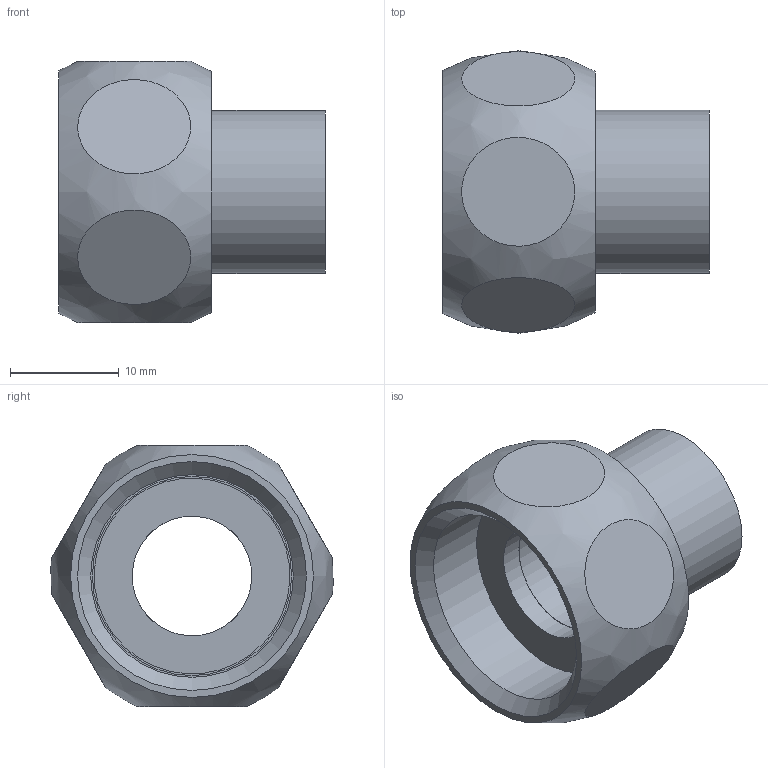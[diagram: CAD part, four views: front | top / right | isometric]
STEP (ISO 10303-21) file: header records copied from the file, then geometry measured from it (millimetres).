
FILE_DESCRIPTION(/* description */ (''),/* implementation_level */ '2;1');
FILE_NAME(/* name */ '\\LG50001\SANHA_Legnica\Engineering\Public\RYSUNKI\SANHA POLSKA\4359g\inventor\14359g_12-12(1).stp',/* time_stamp */ '2017-03-16T12:42:30+01:00',/* author */ ('gomulka'),/* organization */ (''),/* preprocessor_version */ 'ST-DEVELOPER v15.6',/* originating_system */ 'Autodesk Inventor 2015',/* authorisation */ '');
FILE_SCHEMA (('AUTOMOTIVE_DESIGN { 1 0 10303 214 3 1 1 }'));
Length unit declared in the file: millimetre
Products named in the file (4): 14372_12-12(1); 14374B_12(0); 1DCU12; 14359g_12-12(1)
Assembly tree (3 placements, depth 2):
  14359g_12-12(1)
    14372_12-12(1)
    14374B_12(0)
    1DCU12
Bounding box: 24.5 x 25.96 x 24 mm (x, y, z)
Volume: 4541.3 mm3; surface area: 4458.7 mm2
Topology: 3 solids, 3 shells, 25 faces, 39 edges, 28 vertices
Faces by surface type: plane 15, cylinder 8, cone 1, bspline 1
Full cylindrical faces by diameter (mm): 11 x2, 12 x1, 15 x1, 16.1 x1, 18 x1, 18.3 x1, 18.63 x1
Entity records: 950 total; most frequent: CARTESIAN_POINT 415, DIRECTION 104, ORIENTED_EDGE 60, AXIS2_PLACEMENT_3D 52, EDGE_LOOP 48, EDGE_CURVE 30, VERTEX_POINT 28, FACE_OUTER_BOUND 25
